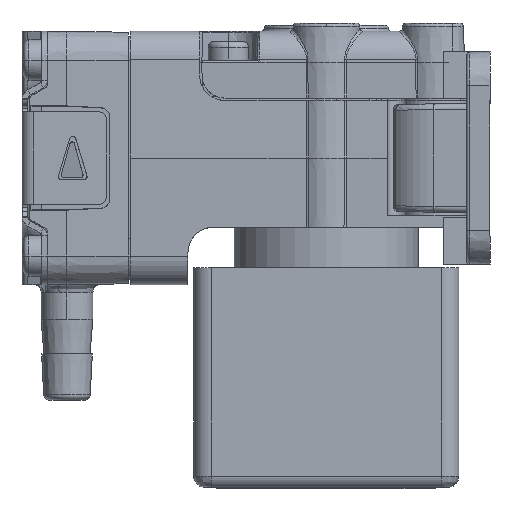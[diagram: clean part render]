
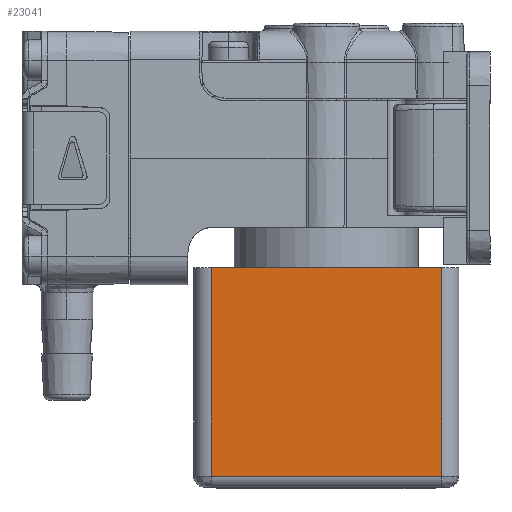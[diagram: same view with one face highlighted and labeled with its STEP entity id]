
A CAD part, left-side view. The second image highlights one B-rep face of the part: STEP entity #23041.
In plain terms, the highlighted planar face has unit normal (-1, 0, 0).
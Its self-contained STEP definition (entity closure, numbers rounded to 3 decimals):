
#7308=DIRECTION('',(0.,0.,-1.));
#7309=VECTOR('',#7308,18.1);
#7310=CARTESIAN_POINT('',(-12.,10.,-9.5));
#7311=LINE('',#7310,#7309);
#7312=DIRECTION('',(0.,-1.,0.));
#7313=VECTOR('',#7312,20.);
#7314=CARTESIAN_POINT('',(-12.,10.,-9.5));
#7315=LINE('',#7314,#7313);
#7320=DIRECTION('',(0.,-1.,0.));
#7321=VECTOR('',#7320,20.);
#7322=CARTESIAN_POINT('',(-12.,10.,-27.6));
#7323=LINE('',#7322,#7321);
#7339=DIRECTION('',(0.,0.,1.));
#7340=VECTOR('',#7339,18.1);
#7341=CARTESIAN_POINT('',(-12.,-10.,-27.6));
#7342=LINE('',#7341,#7340);
#9222=CARTESIAN_POINT('',(-12.,-10.,-9.5));
#9223=VERTEX_POINT('',#9222);
#9224=CARTESIAN_POINT('',(-12.,10.,-9.5));
#9225=VERTEX_POINT('',#9224);
#9270=CARTESIAN_POINT('',(-12.,10.,-27.6));
#9271=VERTEX_POINT('',#9270);
#9296=CARTESIAN_POINT('',(-12.,-10.,-27.6));
#9297=VERTEX_POINT('',#9296);
#23028=CARTESIAN_POINT('',(-12.,10.,-9.5));
#23029=DIRECTION('',(-1.,0.,0.));
#23030=DIRECTION('',(0.,-1.,0.));
#23031=AXIS2_PLACEMENT_3D('',#23028,#23029,#23030);
#23032=PLANE('',#23031);
#23034=ORIENTED_EDGE('',*,*,#23033,.F.);
#23035=ORIENTED_EDGE('',*,*,#23016,.F.);
#23036=ORIENTED_EDGE('',*,*,#22682,.T.);
#23038=ORIENTED_EDGE('',*,*,#23037,.F.);
#23039=EDGE_LOOP('',(#23034,#23035,#23036,#23038));
#23040=FACE_OUTER_BOUND('',#23039,.F.);
#22682=EDGE_CURVE('',#9225,#9223,#7315,.T.);
#23016=EDGE_CURVE('',#9225,#9271,#7311,.T.);
#23033=EDGE_CURVE('',#9271,#9297,#7323,.T.);
#23037=EDGE_CURVE('',#9297,#9223,#7342,.T.);
#23041=ADVANCED_FACE('',(#23040),#23032,.T.);
